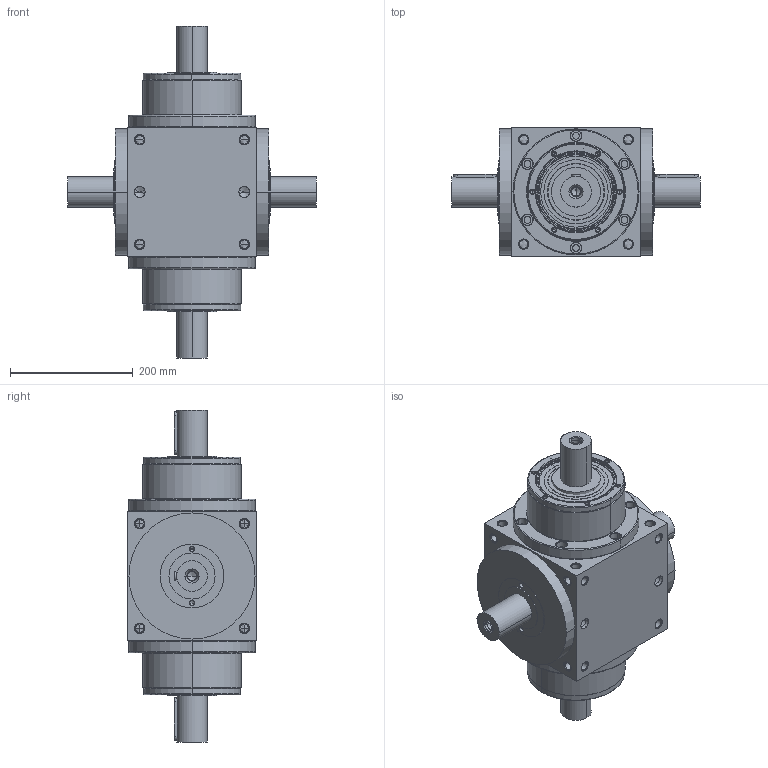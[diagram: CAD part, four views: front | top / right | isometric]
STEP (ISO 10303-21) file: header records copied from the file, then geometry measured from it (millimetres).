
FILE_DESCRIPTION((''),'2;1');
FILE_NAME('AT2104M-1_ASM','2010-02-09T',('d00080'),(''),'PRO/ENGINEER BY PARAMETRIC TECHNOLOGY CORPORATION, 2008170','PRO/ENGINEER BY PARAMETRIC TECHNOLOGY CORPORATION, 2008170','');
FILE_SCHEMA(('CONFIG_CONTROL_DESIGN'));
Length unit declared in the file: millimetre
Products named in the file (4): AT4M-HOUSING-1-8; P1801800001; 22400071008; AT2104M-1_ASM
Assembly tree (5 placements, depth 2):
  AT2104M-1_ASM
    AT4M-HOUSING-1-8
    P1801800001  x2
    22400071008  x2
Bounding box: 404 x 210 x 540 mm (x, y, z)
Volume: 13736132.6 mm3; surface area: 806244 mm2
Topology: 7 solids, 47 shells, 866 faces, 2072 edges, 1224 vertices
Faces by surface type: cylinder 380, cone 300, plane 114, torus 72
Entity records: 19061 total; most frequent: CARTESIAN_POINT 4049, DIRECTION 3372, ORIENTED_EDGE 2840, EDGE_CURVE 1488, AXIS2_PLACEMENT_3D 1411, VERTEX_POINT 931, CIRCLE 762, EDGE_LOOP 755
